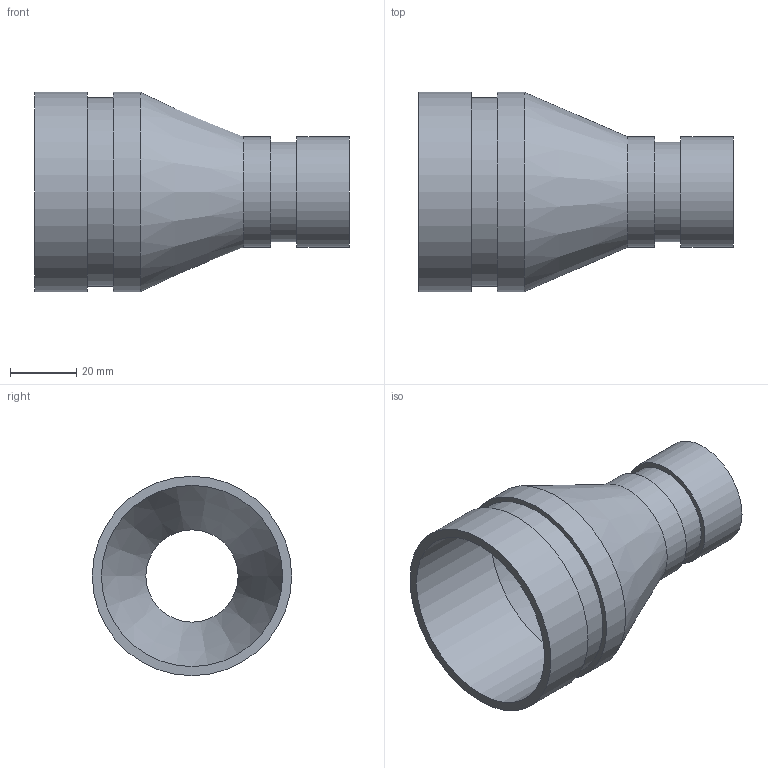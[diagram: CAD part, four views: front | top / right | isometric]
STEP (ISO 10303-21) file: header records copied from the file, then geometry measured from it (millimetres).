
FILE_DESCRIPTION(/* description */ ('VIC REDUCER CONCENTRIC No 450-SS','CAx-IF Rec.Pracs.---Representation and Presentation of Product Manufacturing Information (PMI)---4.0---2014-10-13'),/* implementation_level */ '2;1');
FILE_NAME(/* name */ 'C:\Users\kkamble\AppData\Roaming\Autodesk\ApplicationPlugins\Back Up\Victaulic_SS-OGS_Reducer Concentric_Sched 10S_No 450 SS (OGS)\Victaulic_SS-OGS_Reducer Concentric_Sched 10S_No 450 SS (OGS)_02.0x01.0 (50x25).stp',/* time_stamp */ '2020-09-08T12:32:01+05:00',/* author */ ('CORINNE GRAY'),/* organization */ ('Victaulic'),/* preprocessor_version */ 'ST-DEVELOPER v17.2',/* originating_system */ 'Autodesk Inventor 2019',/* authorisation */ '');
FILE_SCHEMA (('AP242_MANAGED_MODEL_BASED_3D_ENGINEERING_MIM_LF { 1 0 10303 442 1 1 4 }'));
Length unit declared in the file: inch
Products named in the file (1): 450 SS-02.0x01.0
Bounding box: 95.25 x 60.33 x 60.33 mm (x, y, z)
Volume: 32468.8 mm3; surface area: 28683.9 mm2
Topology: 1 solids, 1 shells, 16 faces, 42 edges, 32 vertices
Faces by surface type: cylinder 8, plane 6, cone 2
Full cylindrical faces by diameter (mm): 27.94 x1, 30.226 x1, 33.401 x2, 54.864 x1, 57.15 x1, 60.325 x2
Entity records: 686 total; most frequent: DIRECTION 134, CARTESIAN_POINT 108, ORIENTED_EDGE 84, AXIS2_PLACEMENT_3D 62, EDGE_CURVE 42, CIRCLE 32, VERTEX_POINT 32, EDGE_LOOP 22
